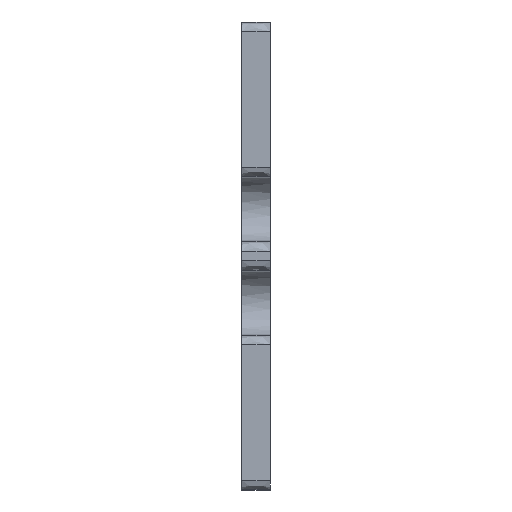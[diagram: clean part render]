
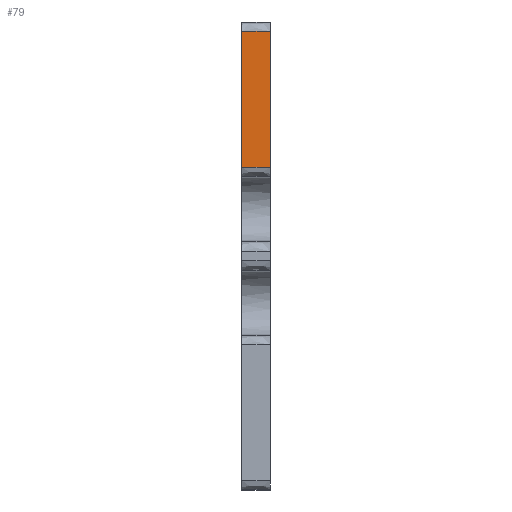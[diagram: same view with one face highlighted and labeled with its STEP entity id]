
A CAD part, left-side view. The second image highlights one B-rep face of the part: STEP entity #79.
In plain terms, the highlighted planar face has unit normal (-1, 0, 0).
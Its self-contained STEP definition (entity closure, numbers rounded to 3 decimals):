
#79=ADVANCED_FACE('',(#131),#1896,.T.);
#131=FACE_OUTER_BOUND('',#187,.T.);
#187=EDGE_LOOP('',(#391,#392,#393,#394));
#391=ORIENTED_EDGE('',*,*,#1570,.T.);
#392=ORIENTED_EDGE('',*,*,#1571,.T.);
#393=ORIENTED_EDGE('',*,*,#1572,.T.);
#394=ORIENTED_EDGE('',*,*,#1568,.F.);
#676=PCURVE('',#1929,#964);
#679=PCURVE('',#1896,#967);
#680=PCURVE('',#1896,#968);
#681=PCURVE('',#1896,#969);
#682=PCURVE('',#1896,#970);
#686=PCURVE('',#1930,#974);
#736=PCURVE('',#1901,#1024);
#761=PCURVE('',#1902,#1049);
#964=DEFINITIONAL_REPRESENTATION('',(#1237),#3550);
#967=DEFINITIONAL_REPRESENTATION('',(#1241),#3550);
#968=DEFINITIONAL_REPRESENTATION('',(#1243),#3550);
#969=DEFINITIONAL_REPRESENTATION('',(#1245),#3550);
#970=DEFINITIONAL_REPRESENTATION('',(#1246),#3550);
#974=DEFINITIONAL_REPRESENTATION('',(#1250),#3550);
#1024=DEFINITIONAL_REPRESENTATION('',(#1307),#3550);
#1049=DEFINITIONAL_REPRESENTATION('',(#1310),#3550);
#1237=B_SPLINE_CURVE_WITH_KNOTS('',1,(#3152,#3153),.UNSPECIFIED.,.F.,.F.,
(2,2),(0.,3.),.UNSPECIFIED.);
#1240=B_SPLINE_CURVE_WITH_KNOTS('',1,(#3161,#3162),.UNSPECIFIED.,.F.,.F.,
(2,2),(34.133,48.633),.UNSPECIFIED.);
#1241=B_SPLINE_CURVE_WITH_KNOTS('',1,(#3163,#3164),.UNSPECIFIED.,.F.,.F.,
(2,2),(34.133,48.633),.UNSPECIFIED.);
#1242=B_SPLINE_CURVE_WITH_KNOTS('',1,(#3165,#3166),.UNSPECIFIED.,.F.,.F.,
(2,2),(0.,3.),.UNSPECIFIED.);
#1243=B_SPLINE_CURVE_WITH_KNOTS('',1,(#3167,#3168),.UNSPECIFIED.,.F.,.F.,
(2,2),(0.,3.),.UNSPECIFIED.);
#1244=B_SPLINE_CURVE_WITH_KNOTS('',1,(#3169,#3170),.UNSPECIFIED.,.F.,.F.,
(2,2),(-48.633,-34.133),.UNSPECIFIED.);
#1245=B_SPLINE_CURVE_WITH_KNOTS('',1,(#3171,#3172),.UNSPECIFIED.,.F.,.F.,
(2,2),(-48.633,-34.133),.UNSPECIFIED.);
#1246=B_SPLINE_CURVE_WITH_KNOTS('',1,(#3173,#3174),.UNSPECIFIED.,.F.,.F.,
(2,2),(0.,3.),.UNSPECIFIED.);
#1250=B_SPLINE_CURVE_WITH_KNOTS('',1,(#3189,#3190),.UNSPECIFIED.,.F.,.F.,
(2,2),(0.,3.),.UNSPECIFIED.);
#1307=B_SPLINE_CURVE_WITH_KNOTS('',1,(#3379,#3380),.UNSPECIFIED.,.F.,.F.,
(2,2),(34.133,48.633),.UNSPECIFIED.);
#1310=B_SPLINE_CURVE_WITH_KNOTS('',1,(#3477,#3478),.UNSPECIFIED.,.F.,.F.,
(2,2),(-48.633,-34.133),.UNSPECIFIED.);
#1424=SURFACE_CURVE('',#1727,(#676,#682),.PCURVE_S1.);
#1426=SURFACE_CURVE('',#1240,(#679,#736),.PCURVE_S1.);
#1427=SURFACE_CURVE('',#1242,(#680,#686),.PCURVE_S1.);
#1428=SURFACE_CURVE('',#1244,(#681,#761),.PCURVE_S1.);
#1568=EDGE_CURVE('',#1859,#1860,#1424,.T.);
#1570=EDGE_CURVE('',#1859,#1861,#1426,.T.);
#1571=EDGE_CURVE('',#1861,#1862,#1427,.T.);
#1572=EDGE_CURVE('',#1862,#1860,#1428,.T.);
#1727=(
BOUNDED_CURVE()
B_SPLINE_CURVE(1,(#3150,#3151),.UNSPECIFIED.,.F.,.F.)
B_SPLINE_CURVE_WITH_KNOTS((2,2),(0.,3.),.UNSPECIFIED.)
CURVE()
GEOMETRIC_REPRESENTATION_ITEM()
RATIONAL_B_SPLINE_CURVE((1.,1.))
REPRESENTATION_ITEM('')
);
#1859=VERTEX_POINT('',#2965);
#1860=VERTEX_POINT('',#2966);
#1861=VERTEX_POINT('',#2967);
#1862=VERTEX_POINT('',#2968);
#1896=PLANE('',#1968);
#1901=PLANE('',#1973);
#1902=PLANE('',#1974);
#1929=(
BOUNDED_SURFACE()
B_SPLINE_SURFACE(2,1,((#2830,#2831),(#2832,#2833),(#2834,#2835)),
 .UNSPECIFIED.,.F.,.F.,.F.)
B_SPLINE_SURFACE_WITH_KNOTS((3,3),(2,2),(32.562,34.133),
(0.,3.),.UNSPECIFIED.)
GEOMETRIC_REPRESENTATION_ITEM()
RATIONAL_B_SPLINE_SURFACE(((1.,1.),(0.707,0.707),
(1.,1.)))
REPRESENTATION_ITEM('')
SURFACE()
);
#1930=(
BOUNDED_SURFACE()
B_SPLINE_SURFACE(2,1,((#2837,#2838),(#2839,#2840),(#2841,#2842)),
 .UNSPECIFIED.,.F.,.F.,.F.)
B_SPLINE_SURFACE_WITH_KNOTS((3,3),(2,2),(48.633,50.204),
(0.,3.),.UNSPECIFIED.)
GEOMETRIC_REPRESENTATION_ITEM()
RATIONAL_B_SPLINE_SURFACE(((1.,1.),(0.707,0.707),
(1.,1.)))
REPRESENTATION_ITEM('')
SURFACE()
);
#1968=AXIS2_PLACEMENT_3D('',#2836,#1987,$);
#1973=AXIS2_PLACEMENT_3D('',#2907,#1992,$);
#1974=AXIS2_PLACEMENT_3D('',#2908,#1993,$);
#1987=DIRECTION('',(-1.,0.,0.));
#1992=DIRECTION('',(0.,-1.,0.));
#1993=DIRECTION('',(0.,1.,0.));
#2830=CARTESIAN_POINT('',(-805.,339.,80.));
#2831=CARTESIAN_POINT('',(-805.,342.,80.));
#2832=CARTESIAN_POINT('',(-806.,339.,80.));
#2833=CARTESIAN_POINT('',(-806.,342.,80.));
#2834=CARTESIAN_POINT('',(-806.,339.,81.));
#2835=CARTESIAN_POINT('',(-806.,342.,81.));
#2836=CARTESIAN_POINT('',(-806.,339.,81.));
#2837=CARTESIAN_POINT('',(-806.,339.,95.5));
#2838=CARTESIAN_POINT('',(-806.,342.,95.5));
#2839=CARTESIAN_POINT('',(-806.,339.,96.5));
#2840=CARTESIAN_POINT('',(-806.,342.,96.5));
#2841=CARTESIAN_POINT('',(-805.,339.,96.5));
#2842=CARTESIAN_POINT('',(-805.,342.,96.5));
#2907=CARTESIAN_POINT('',(-808.875,339.,102.75));
#2908=CARTESIAN_POINT('',(-808.875,342.,102.75));
#2965=CARTESIAN_POINT('',(-806.,339.,81.));
#2966=CARTESIAN_POINT('',(-806.,342.,81.));
#2967=CARTESIAN_POINT('',(-806.,339.,95.5));
#2968=CARTESIAN_POINT('',(-806.,342.,95.5));
#3150=CARTESIAN_POINT('',(-806.,339.,81.));
#3151=CARTESIAN_POINT('',(-806.,342.,81.));
#3152=CARTESIAN_POINT('',(34.133,0.));
#3153=CARTESIAN_POINT('',(34.133,3.));
#3161=CARTESIAN_POINT('',(-806.,339.,81.));
#3162=CARTESIAN_POINT('',(-806.,339.,95.5));
#3163=CARTESIAN_POINT('',(34.133,0.));
#3164=CARTESIAN_POINT('',(48.633,0.));
#3165=CARTESIAN_POINT('',(-806.,339.,95.5));
#3166=CARTESIAN_POINT('',(-806.,342.,95.5));
#3167=CARTESIAN_POINT('',(48.633,0.));
#3168=CARTESIAN_POINT('',(48.633,3.));
#3169=CARTESIAN_POINT('',(-806.,342.,95.5));
#3170=CARTESIAN_POINT('',(-806.,342.,81.));
#3171=CARTESIAN_POINT('',(48.633,3.));
#3172=CARTESIAN_POINT('',(34.133,3.));
#3173=CARTESIAN_POINT('',(34.133,0.));
#3174=CARTESIAN_POINT('',(34.133,3.));
#3189=CARTESIAN_POINT('',(48.633,0.));
#3190=CARTESIAN_POINT('',(48.633,3.));
#3379=CARTESIAN_POINT('',(7.4,-11.));
#3380=CARTESIAN_POINT('',(-7.1,-11.));
#3477=CARTESIAN_POINT('',(-11.,-7.1));
#3478=CARTESIAN_POINT('',(-11.,7.4));
#3550=(
GEOMETRIC_REPRESENTATION_CONTEXT(2)
PARAMETRIC_REPRESENTATION_CONTEXT()
REPRESENTATION_CONTEXT('pspace','')
);
